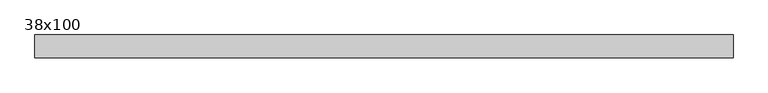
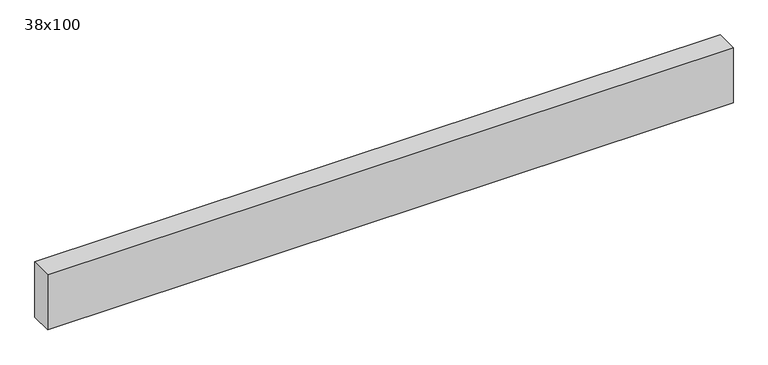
"""IFC4 building model written with IfcOpenShell, lengths in millimetres: beam geometry, Poutre - Bois de construction de dimensions courantes : 38x100."""

from ifc_helpers import new_model, si_unit, frame, origin, place, context, project, spatial, polyline, outline, extrude, source, transform, mapped, element, save


def beam_38x100_e2792397(model_context):
    return source(origin(), model_context, "Body", "SweptSolid", [
        extrude(outline(polyline([(506.0, 19.05), (506.0, -19.05), (-666.0, -19.05), (-666.0, 19.05), (506.0, 19.05)])), frame((0.0, 0.0, -50.0), z_axis=(0.0, 0.0, 1.0), x_axis=(1.0, 0.0, 0.0)), (0.0, 0.0, 1.0), 100.0),
    ])


if __name__ == "__main__":
    model = new_model("IFC4")
    model_context = context("Model", 3, world=origin())
    ifc_project = project(units=[si_unit("LENGTHUNIT", "METRE", prefix="MILLI")], contexts=[model_context])
    site = spatial("IfcSite", under=ifc_project)
    building = spatial("IfcBuilding", under=site)
    placement = place(None, origin())
    beam_38x100_shape = beam_38x100_e2792397(model_context)
    element("IfcBeam", 1, ObjectType="Poutre - Bois de construction de dimensions courantes : 38x100", at=placement, inside=building, context=model_context, shape_type="MappedRepresentation", body=[
        mapped(beam_38x100_shape, transform((0.0, 0.0, 0.0), x_axis=(1.0, 0.0, 0.0), y_axis=(0.0, 1.0, 0.0), z_axis=(0.0, 0.0, 1.0))),
    ])
    save(model, "model.ifc")
